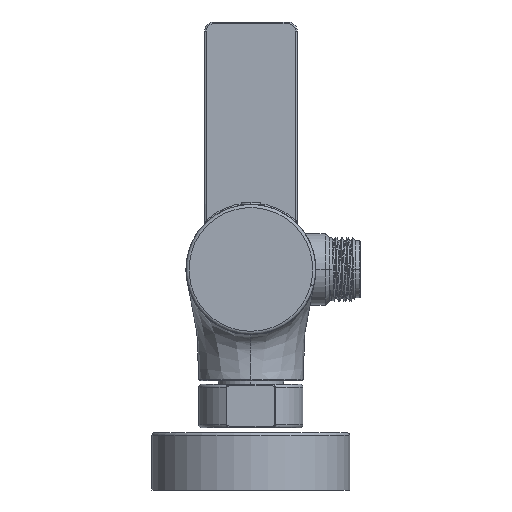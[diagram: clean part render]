
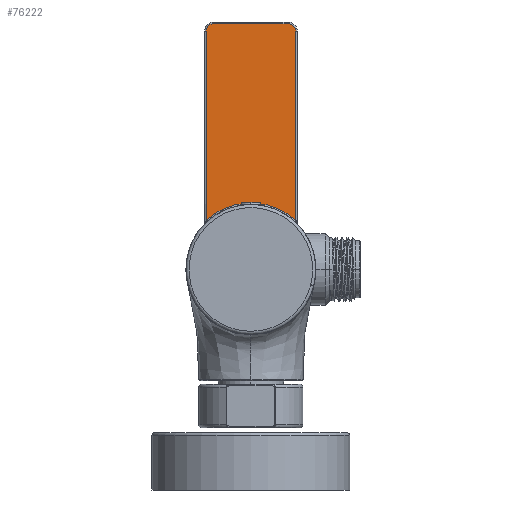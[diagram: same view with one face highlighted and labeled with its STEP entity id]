
A CAD part, left-side view. The second image highlights one B-rep face of the part: STEP entity #76222.
In plain terms, the highlighted planar face has unit normal (-1, 0, 0).
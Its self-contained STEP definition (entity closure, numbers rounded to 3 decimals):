
#66815=CARTESIAN_POINT('',(221.1,-14.5,
15.875));
#66817=DIRECTION('',(0.,0.,-1.));
#66818=VECTOR('',#66817,61.125);
#66819=CARTESIAN_POINT('',(221.1,14.5,77.));
#66820=LINE('',#66819,#66818);
#66821=CARTESIAN_POINT('',(221.1,12.,77.));
#66822=DIRECTION('',(-1.,0.,0.));
#66823=DIRECTION('',(0.,0.,1.));
#66824=AXIS2_PLACEMENT_3D('',#66821,#66822,#66823);
#66826=DIRECTION('',(0.,1.,0.));
#66827=VECTOR('',#66826,24.);
#66828=CARTESIAN_POINT('',(221.1,-12.,79.5));
#66829=LINE('',#66828,#66827);
#66830=CARTESIAN_POINT('',(221.1,-12.,77.));
#66831=DIRECTION('',(-1.,0.,0.));
#66832=DIRECTION('',(0.,-1.,0.));
#66833=AXIS2_PLACEMENT_3D('',#66830,#66831,#66832);
#66835=DIRECTION('',(0.,0.,1.));
#66836=VECTOR('',#66835,61.125);
#66837=CARTESIAN_POINT('',(221.1,-14.5,
15.875));
#66838=LINE('',#66837,#66836);
#66839=CARTESIAN_POINT('',(221.1,0.,0.));
#66840=DIRECTION('',(1.,0.,0.));
#66841=DIRECTION('',(0.,0.674,0.738));
#66842=AXIS2_PLACEMENT_3D('',#66839,#66840,#66841);
#66892=CARTESIAN_POINT('',(221.1,14.5,15.875));
#68067=CARTESIAN_POINT('',(221.1,12.,79.5));
#68068=CARTESIAN_POINT('',(221.1,14.5,77.));
#68069=VERTEX_POINT('',#68067);
#68070=VERTEX_POINT('',#68068);
#68075=CARTESIAN_POINT('',(221.1,-12.,79.5));
#68076=VERTEX_POINT('',#68075);
#68079=CARTESIAN_POINT('',(221.1,-14.5,77.));
#68080=VERTEX_POINT('',#68079);
#68139=VERTEX_POINT('',#66892);
#68145=VERTEX_POINT('',#66815);
#76204=CARTESIAN_POINT('',(221.1,0.,0.));
#76205=DIRECTION('',(1.,0.,0.));
#76206=DIRECTION('',(0.,0.,1.));
#76207=AXIS2_PLACEMENT_3D('',#76204,#76205,#76206);
#76208=PLANE('',#76207);
#76210=ORIENTED_EDGE('',*,*,#76209,.F.);
#76212=ORIENTED_EDGE('',*,*,#76211,.F.);
#76214=ORIENTED_EDGE('',*,*,#76213,.F.);
#76216=ORIENTED_EDGE('',*,*,#76215,.F.);
#76218=ORIENTED_EDGE('',*,*,#76217,.F.);
#76219=ORIENTED_EDGE('',*,*,#76195,.F.);
#76220=EDGE_LOOP('',(#76210,#76212,#76214,#76216,#76218,#76219));
#76221=FACE_OUTER_BOUND('',#76220,.F.);
#76222=ADVANCED_FACE('',(#76221),#76208,.F.);
#66825=CIRCLE('',#66824,2.5);
#66834=CIRCLE('',#66833,2.5);
#66843=CIRCLE('',#66842,21.5);
#76195=EDGE_CURVE('',#68145,#68080,#66838,.T.);
#76209=EDGE_CURVE('',#68139,#68145,#66843,.T.);
#76211=EDGE_CURVE('',#68070,#68139,#66820,.T.);
#76213=EDGE_CURVE('',#68069,#68070,#66825,.T.);
#76215=EDGE_CURVE('',#68076,#68069,#66829,.T.);
#76217=EDGE_CURVE('',#68080,#68076,#66834,.T.);
